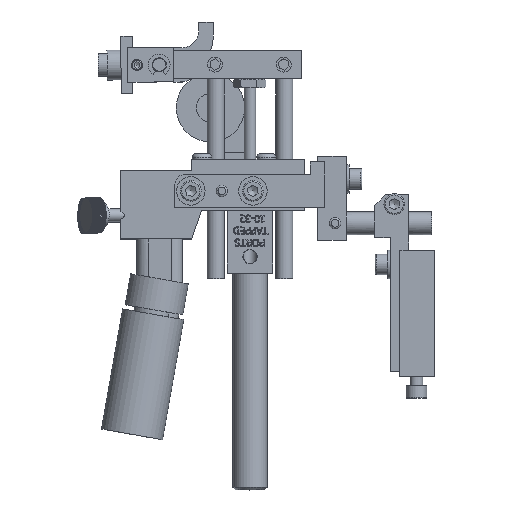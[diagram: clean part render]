
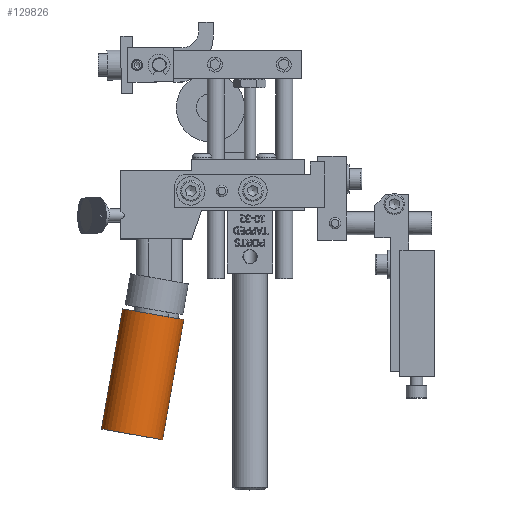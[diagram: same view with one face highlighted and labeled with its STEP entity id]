
A CAD part, top view. The second image highlights one B-rep face of the part: STEP entity #129826.
In plain terms, the highlighted cylindrical face has radius 8.636 mm (diameter 17.272 mm), a full revolution.
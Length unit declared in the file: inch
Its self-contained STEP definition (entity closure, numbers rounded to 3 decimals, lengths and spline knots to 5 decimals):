
#129779=CARTESIAN_POINT('',(-0.93754,-4.07293,-0.55726));
#129780=VERTEX_POINT('',#129779);
#129781=CARTESIAN_POINT('',(-0.8449,-4.08927,-0.23053));
#129782=DIRECTION('',(-0.174,-0.985,0.));
#129783=DIRECTION('',(0.272,-0.048,0.961));
#129784=AXIS2_PLACEMENT_3D('',#129781,#129782,#129783);
#129785=CIRCLE('',#129784,0.34);
#129786=EDGE_CURVE('',#129780,#129780,#129785,.T.);
#129807=CARTESIAN_POINT('',(-0.8449,-4.08927,-0.23053));
#129808=DIRECTION('',(0.174,0.985,0.));
#129809=DIRECTION('',(0.272,-0.048,0.961));
#129810=AXIS2_PLACEMENT_3D('',#129807,#129808,#129809);
#129811=CYLINDRICAL_SURFACE('',#129810,0.34);
#129812=CARTESIAN_POINT('',(-0.70572,-2.75821,-0.55725));
#129813=VERTEX_POINT('',#129812);
#129814=CARTESIAN_POINT('',(-0.61308,-2.77455,-0.23053));
#129815=DIRECTION('',(-0.174,-0.985,0.));
#129816=DIRECTION('',(0.272,-0.048,0.961));
#129817=AXIS2_PLACEMENT_3D('',#129814,#129815,#129816);
#129818=CIRCLE('',#129817,0.34);
#129819=EDGE_CURVE('',#129813,#129813,#129818,.T.);
#129820=ORIENTED_EDGE('',*,*,#129819,.T.);
#129821=EDGE_LOOP('',(#129820));
#129822=FACE_OUTER_BOUND('',#129821,.T.);
#129823=ORIENTED_EDGE('',*,*,#129786,.F.);
#129824=EDGE_LOOP('',(#129823));
#129825=FACE_BOUND('',#129824,.T.);
#129826=ADVANCED_FACE('',(#129822,#129825),#129811,.T.);
